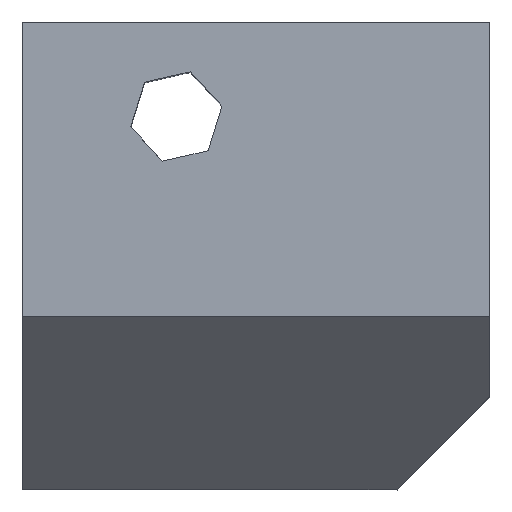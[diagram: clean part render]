
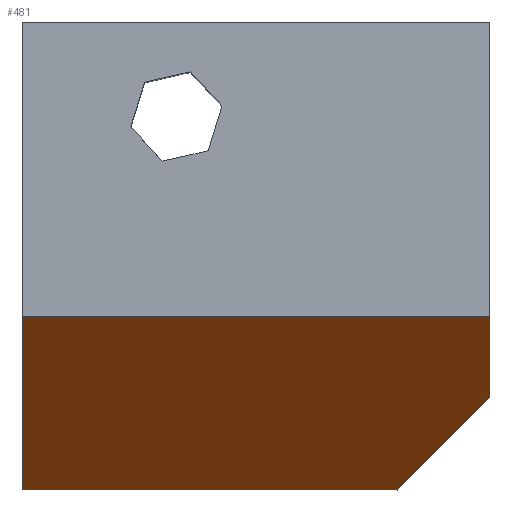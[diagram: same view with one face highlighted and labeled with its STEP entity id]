
A CAD part, top view. The second image highlights one B-rep face of the part: STEP entity #481.
In plain terms, the highlighted planar face has unit normal (0, -0.707, 0.707).
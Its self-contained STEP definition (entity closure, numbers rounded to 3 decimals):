
#32 = PLANE('',#33);
#33 = AXIS2_PLACEMENT_3D('',#34,#35,#36);
#34 = CARTESIAN_POINT('',(-3.965,-20.,-0.629));
#35 = DIRECTION('',(-0.,-1.,-0.));
#36 = DIRECTION('',(0.,0.,1.));
#57 = VERTEX_POINT('',#58);
#58 = CARTESIAN_POINT('',(12.07,-20.,5.194)
  );
#72 = PLANE('',#73);
#73 = AXIS2_PLACEMENT_3D('',#74,#75,#76);
#74 = CARTESIAN_POINT('',(16.035,-16.035,-0.629
    ));
#75 = DIRECTION('',(-0.707,0.707,0.));
#76 = DIRECTION('',(0.,0.,-1.));
#84 = EDGE_CURVE('',#57,#85,#87,.T.);
#85 = VERTEX_POINT('',#86);
#86 = CARTESIAN_POINT('',(-20.,-20.,5.194));
#87 = SURFACE_CURVE('',#88,(#92,#99),.PCURVE_S1.);
#88 = LINE('',#89,#90);
#89 = CARTESIAN_POINT('',(12.07,-20.,5.194)
  );
#90 = VECTOR('',#91,1.);
#91 = DIRECTION('',(-1.,0.,0.));
#92 = PCURVE('',#32,#93);
#93 = DEFINITIONAL_REPRESENTATION('',(#94),#98);
#94 = LINE('',#95,#96);
#95 = CARTESIAN_POINT('',(5.823,-16.035));
#96 = VECTOR('',#97,1.);
#97 = DIRECTION('',(0.,1.));
#98 = ( GEOMETRIC_REPRESENTATION_CONTEXT(2) 
PARAMETRIC_REPRESENTATION_CONTEXT() REPRESENTATION_CONTEXT('2D SPACE',''
  ) );
#99 = PCURVE('',#100,#105);
#100 = PLANE('',#101);
#101 = AXIS2_PLACEMENT_3D('',#102,#103,#104);
#102 = CARTESIAN_POINT('',(2.414,-12.492,
    12.702));
#103 = DIRECTION('',(0.,0.707,-0.707));
#104 = DIRECTION('',(0.,-0.707,-0.707));
#105 = DEFINITIONAL_REPRESENTATION('',(#106),#110);
#106 = LINE('',#107,#108);
#107 = CARTESIAN_POINT('',(10.618,-9.656));
#108 = VECTOR('',#109,1.);
#109 = DIRECTION('',(0.,1.));
#110 = ( GEOMETRIC_REPRESENTATION_CONTEXT(2) 
PARAMETRIC_REPRESENTATION_CONTEXT() REPRESENTATION_CONTEXT('2D SPACE',''
  ) );
#126 = PLANE('',#127);
#127 = AXIS2_PLACEMENT_3D('',#128,#129,#130);
#128 = CARTESIAN_POINT('',(-20.,1.914,3.782));
#129 = DIRECTION('',(1.,0.,0.));
#130 = DIRECTION('',(0.,0.,1.));
#159 = PLANE('',#160);
#160 = AXIS2_PLACEMENT_3D('',#161,#162,#163);
#161 = CARTESIAN_POINT('',(20.,3.676,3.782));
#162 = DIRECTION('',(1.,0.,0.));
#163 = DIRECTION('',(0.,0.,1.));
#247 = VERTEX_POINT('',#248);
#248 = CARTESIAN_POINT('',(20.,-12.07,13.124));
#269 = EDGE_CURVE('',#247,#57,#270,.T.);
#270 = SURFACE_CURVE('',#271,(#275,#282),.PCURVE_S1.);
#271 = LINE('',#272,#273);
#272 = CARTESIAN_POINT('',(20.,-12.07,13.124));
#273 = VECTOR('',#274,1.);
#274 = DIRECTION('',(-0.577,-0.577,-0.577));
#275 = PCURVE('',#72,#276);
#276 = DEFINITIONAL_REPRESENTATION('',(#277),#281);
#277 = LINE('',#278,#279);
#278 = CARTESIAN_POINT('',(-13.753,-5.607));
#279 = VECTOR('',#280,1.);
#280 = DIRECTION('',(0.577,0.816));
#281 = ( GEOMETRIC_REPRESENTATION_CONTEXT(2) 
PARAMETRIC_REPRESENTATION_CONTEXT() REPRESENTATION_CONTEXT('2D SPACE',''
  ) );
#282 = PCURVE('',#100,#283);
#283 = DEFINITIONAL_REPRESENTATION('',(#284),#288);
#284 = LINE('',#285,#286);
#285 = CARTESIAN_POINT('',(-0.596,-17.586));
#286 = VECTOR('',#287,1.);
#287 = DIRECTION('',(0.816,0.577));
#288 = ( GEOMETRIC_REPRESENTATION_CONTEXT(2) 
PARAMETRIC_REPRESENTATION_CONTEXT() REPRESENTATION_CONTEXT('2D SPACE',''
  ) );
#347 = EDGE_CURVE('',#85,#348,#350,.T.);
#348 = VERTEX_POINT('',#349);
#349 = CARTESIAN_POINT('',(-20.,-5.194,20.));
#350 = SURFACE_CURVE('',#351,(#355,#362),.PCURVE_S1.);
#351 = LINE('',#352,#353);
#352 = CARTESIAN_POINT('',(-20.,-20.,5.194));
#353 = VECTOR('',#354,1.);
#354 = DIRECTION('',(0.,0.707,0.707));
#355 = PCURVE('',#126,#356);
#356 = DEFINITIONAL_REPRESENTATION('',(#357),#361);
#357 = LINE('',#358,#359);
#358 = CARTESIAN_POINT('',(1.412,21.914));
#359 = VECTOR('',#360,1.);
#360 = DIRECTION('',(0.707,-0.707));
#361 = ( GEOMETRIC_REPRESENTATION_CONTEXT(2) 
PARAMETRIC_REPRESENTATION_CONTEXT() REPRESENTATION_CONTEXT('2D SPACE',''
  ) );
#362 = PCURVE('',#100,#363);
#363 = DEFINITIONAL_REPRESENTATION('',(#364),#368);
#364 = LINE('',#365,#366);
#365 = CARTESIAN_POINT('',(10.618,22.414));
#366 = VECTOR('',#367,1.);
#367 = DIRECTION('',(-1.,0.));
#368 = ( GEOMETRIC_REPRESENTATION_CONTEXT(2) 
PARAMETRIC_REPRESENTATION_CONTEXT() REPRESENTATION_CONTEXT('2D SPACE',''
  ) );
#384 = PLANE('',#385);
#385 = AXIS2_PLACEMENT_3D('',#386,#387,#388);
#386 = CARTESIAN_POINT('',(-4.09,10.111,20.));
#387 = DIRECTION('',(0.,0.,1.));
#388 = DIRECTION('',(0.,1.,0.));
#481 = ADVANCED_FACE('',(#482),#100,.F.);
#482 = FACE_BOUND('',#483,.T.);
#483 = EDGE_LOOP('',(#484,#485,#508,#529,#530));
#484 = ORIENTED_EDGE('',*,*,#269,.F.);
#485 = ORIENTED_EDGE('',*,*,#486,.T.);
#486 = EDGE_CURVE('',#247,#487,#489,.T.);
#487 = VERTEX_POINT('',#488);
#488 = CARTESIAN_POINT('',(20.,-5.194,20.));
#489 = SURFACE_CURVE('',#490,(#494,#501),.PCURVE_S1.);
#490 = LINE('',#491,#492);
#491 = CARTESIAN_POINT('',(20.,-12.07,13.124));
#492 = VECTOR('',#493,1.);
#493 = DIRECTION('',(0.,0.707,0.707));
#494 = PCURVE('',#100,#495);
#495 = DEFINITIONAL_REPRESENTATION('',(#496),#500);
#496 = LINE('',#497,#498);
#497 = CARTESIAN_POINT('',(-0.596,-17.586));
#498 = VECTOR('',#499,1.);
#499 = DIRECTION('',(-1.,0.));
#500 = ( GEOMETRIC_REPRESENTATION_CONTEXT(2) 
PARAMETRIC_REPRESENTATION_CONTEXT() REPRESENTATION_CONTEXT('2D SPACE',''
  ) );
#501 = PCURVE('',#159,#502);
#502 = DEFINITIONAL_REPRESENTATION('',(#503),#507);
#503 = LINE('',#504,#505);
#504 = CARTESIAN_POINT('',(9.342,15.747));
#505 = VECTOR('',#506,1.);
#506 = DIRECTION('',(0.707,-0.707));
#507 = ( GEOMETRIC_REPRESENTATION_CONTEXT(2) 
PARAMETRIC_REPRESENTATION_CONTEXT() REPRESENTATION_CONTEXT('2D SPACE',''
  ) );
#508 = ORIENTED_EDGE('',*,*,#509,.T.);
#509 = EDGE_CURVE('',#487,#348,#510,.T.);
#510 = SURFACE_CURVE('',#511,(#515,#522),.PCURVE_S1.);
#511 = LINE('',#512,#513);
#512 = CARTESIAN_POINT('',(20.,-5.194,20.));
#513 = VECTOR('',#514,1.);
#514 = DIRECTION('',(-1.,0.,0.));
#515 = PCURVE('',#100,#516);
#516 = DEFINITIONAL_REPRESENTATION('',(#517),#521);
#517 = LINE('',#518,#519);
#518 = CARTESIAN_POINT('',(-10.32,-17.586));
#519 = VECTOR('',#520,1.);
#520 = DIRECTION('',(0.,1.));
#521 = ( GEOMETRIC_REPRESENTATION_CONTEXT(2) 
PARAMETRIC_REPRESENTATION_CONTEXT() REPRESENTATION_CONTEXT('2D SPACE',''
  ) );
#522 = PCURVE('',#384,#523);
#523 = DEFINITIONAL_REPRESENTATION('',(#524),#528);
#524 = LINE('',#525,#526);
#525 = CARTESIAN_POINT('',(-15.305,-24.09));
#526 = VECTOR('',#527,1.);
#527 = DIRECTION('',(0.,1.));
#528 = ( GEOMETRIC_REPRESENTATION_CONTEXT(2) 
PARAMETRIC_REPRESENTATION_CONTEXT() REPRESENTATION_CONTEXT('2D SPACE',''
  ) );
#529 = ORIENTED_EDGE('',*,*,#347,.F.);
#530 = ORIENTED_EDGE('',*,*,#84,.F.);
